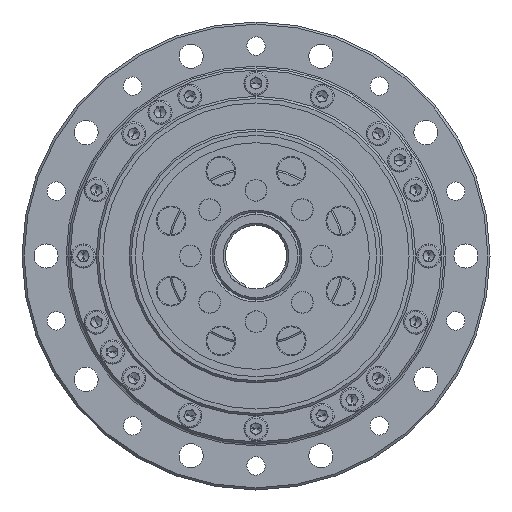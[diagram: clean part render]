
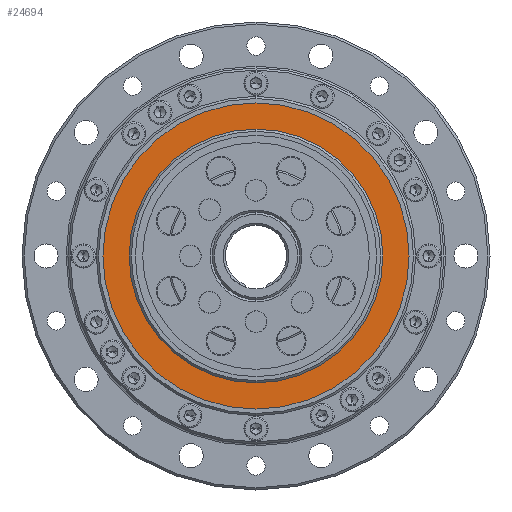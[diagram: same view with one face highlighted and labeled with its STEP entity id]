
A CAD part, left-side view. The second image highlights one B-rep face of the part: STEP entity #24694.
In plain terms, the highlighted planar face has unit normal (-1, 0, 0).
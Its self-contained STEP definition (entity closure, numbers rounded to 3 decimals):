
#330 = CIRCLE ( 'NONE', #26959, 29. ) ;
#2188 = CARTESIAN_POINT ( 'NONE',  ( 3.002, 0., 0. ) ) ;
#2407 = VERTEX_POINT ( 'NONE', #19939 ) ;
#3050 = DIRECTION ( 'NONE',  ( -1., 0., 0. ) ) ;
#3385 = CARTESIAN_POINT ( 'NONE',  ( 3.002, 0., 29. ) ) ;
#4000 = ORIENTED_EDGE ( 'NONE', *, *, #10119, .F. ) ;
#4323 = DIRECTION ( 'NONE',  ( 0., 0., 1. ) ) ;
#4811 = CIRCLE ( 'NONE', #24708, 35. ) ;
#5228 = ORIENTED_EDGE ( 'NONE', *, *, #19991, .F. ) ;
#5257 = EDGE_LOOP ( 'NONE', ( #5228, #4000 ) ) ;
#6187 = DIRECTION ( 'NONE',  ( -1., 0., 0. ) ) ;
#6599 = CARTESIAN_POINT ( 'NONE',  ( 3.002, 35., 0. ) ) ;
#7208 = VERTEX_POINT ( 'NONE', #12562 ) ;
#7247 = DIRECTION ( 'NONE',  ( -1., 0., 0. ) ) ;
#7688 = ORIENTED_EDGE ( 'NONE', *, *, #19655, .T. ) ;
#8757 = AXIS2_PLACEMENT_3D ( 'NONE', #19824, #7247, #21924 ) ;
#10119 = EDGE_CURVE ( 'NONE', #2407, #23357, #330, .T. ) ;
#10764 = FACE_OUTER_BOUND ( 'NONE', #17540, .T. ) ;
#10823 = DIRECTION ( 'NONE',  ( 1., 0., 0. ) ) ;
#11399 = ORIENTED_EDGE ( 'NONE', *, *, #26154, .T. ) ;
#12562 = CARTESIAN_POINT ( 'NONE',  ( 3.002, 0., -35. ) ) ;
#14948 = PLANE ( 'NONE',  #19404 ) ;
#15602 = CARTESIAN_POINT ( 'NONE',  ( 3.002, 0., 0. ) ) ;
#16101 = CARTESIAN_POINT ( 'NONE',  ( 3.002, 0., 35. ) ) ;
#16875 = DIRECTION ( 'NONE',  ( -1., 0., 0. ) ) ;
#17540 = EDGE_LOOP ( 'NONE', ( #11399, #7688 ) ) ;
#17722 = DIRECTION ( 'NONE',  ( 0., 0., 1. ) ) ;
#18763 = CARTESIAN_POINT ( 'NONE',  ( 3.002, 0., 0. ) ) ;
#19404 = AXIS2_PLACEMENT_3D ( 'NONE', #6599, #10823, #25505 ) ;
#19479 = VERTEX_POINT ( 'NONE', #16101 ) ;
#19655 = EDGE_CURVE ( 'NONE', #7208, #19479, #25840, .T. ) ;
#19824 = CARTESIAN_POINT ( 'NONE',  ( 3.002, 0., 0. ) ) ;
#19939 = CARTESIAN_POINT ( 'NONE',  ( 3.002, 0., -29. ) ) ;
#19991 = EDGE_CURVE ( 'NONE', #23357, #2407, #25514, .T. ) ;
#20862 = DIRECTION ( 'NONE',  ( 0., 0., 1. ) ) ;
#21924 = DIRECTION ( 'NONE',  ( 0., 0., 1. ) ) ;
#23357 = VERTEX_POINT ( 'NONE', #3385 ) ;
#23841 = AXIS2_PLACEMENT_3D ( 'NONE', #18763, #6187, #20862 ) ;
#24694 = ADVANCED_FACE ( 'NONE', ( #26855, #10764 ), #14948, .F. ) ;
#24708 = AXIS2_PLACEMENT_3D ( 'NONE', #15602, #3050, #17722 ) ;
#25505 = DIRECTION ( 'NONE',  ( 0., 0., -1. ) ) ;
#25514 = CIRCLE ( 'NONE', #8757, 29. ) ;
#25840 = CIRCLE ( 'NONE', #23841, 35. ) ;
#26154 = EDGE_CURVE ( 'NONE', #19479, #7208, #4811, .T. ) ;
#26855 = FACE_BOUND ( 'NONE', #5257, .T. ) ;
#26959 = AXIS2_PLACEMENT_3D ( 'NONE', #2188, #16875, #4323 ) ;
